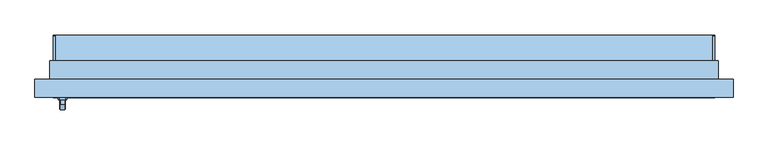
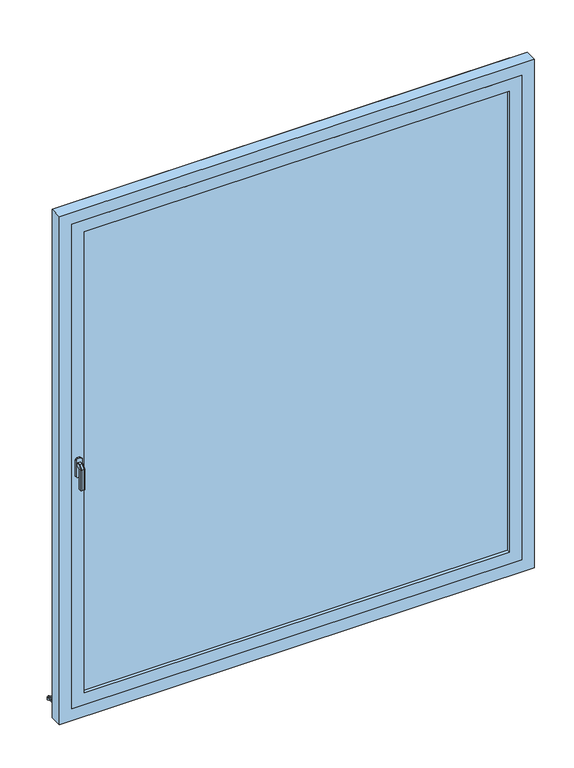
"""IFC4 building model written with IfcOpenShell, lengths in millimetres: window geometry, PF 1 Vantail - Droite blanc : 180/210."""

from ifc_helpers import new_model, si_unit, point, frame, frame_2d, origin, place, context, project, spatial, polyline, circle_curve, trimmed, segment, composite_curve, outline, extrude, faceted_brep, source, transform, mapped, element, save


def window_f47d9263(model_context):
    return source(origin(), model_context, "Body", "SolidModel", [
        faceted_brep([(-869.3539903, -86.0, 1122.0339292), (-867.9660708, -86.0, 1120.6460097), (-867.9660708, -86.0, 1109.3323012), (-869.3323012, -86.0, 1107.9660708), (-880.6676988, -86.0, 1107.9660708), (-882.0339292, -86.0, 1109.3323012), (-882.0339292, -86.0, 1120.6460097), (-880.6460097, -86.0, 1122.0339292), (-869.3539903, -98.9135489, 1122.0339292), (-867.9660708, -98.3386538, 1120.6460097), (-867.9660708, -111.6460097, 1107.3386538), (-867.9660708, -111.6460097, 1020.0), (-867.9660708, -100.3323012, 1020.0), (-867.9660708, -100.3323012, 1102.6523623), (-867.9660708, -93.6523623, 1109.3323012), (-869.3323012, -93.0864511, 1107.9660708), (-880.6676988, -93.0864511, 1107.9660708), (-882.0339292, -93.6523623, 1109.3323012), (-882.0339292, -100.3323012, 1102.6523623), (-882.0339292, -100.3323012, 1020.0), (-882.0339292, -111.6460097, 1020.0), (-882.0339292, -111.6460097, 1107.3386538), (-882.0339292, -98.3386538, 1120.6460097), (-880.6460097, -98.9135489, 1122.0339292), (-869.3539903, -113.0339292, 1107.9135489), (-869.3323012, -98.9660708, 1102.0864511), (-880.6676988, -98.9660708, 1102.0864511), (-880.6460097, -113.0339292, 1107.9135489), (-869.3539903, -113.0339292, 1020.0), (-880.6460097, -113.0339292, 1020.0), (-880.6676988, -98.9660708, 1020.0), (-869.3323012, -98.9660708, 1020.0)], [[[0, 1, 2, 3, 4, 5, 6, 7]], [[1, 0, 8, 9]], [[2, 1, 9, 10, 11, 12, 13, 14]], [[3, 2, 14, 15]], [[4, 3, 15, 16]], [[5, 4, 16, 17]], [[6, 5, 17, 18, 19, 20, 21, 22]], [[7, 6, 22, 23]], [[0, 7, 23, 8]], [[9, 8, 24, 10]], [[15, 14, 13, 25]], [[16, 15, 25, 26]], [[17, 16, 26, 18]], [[23, 22, 21, 27]], [[8, 23, 27, 24]], [[28, 29, 20, 19, 30, 31, 12, 11]], [[10, 24, 28, 11]], [[25, 13, 12, 31]], [[26, 25, 31, 30]], [[18, 26, 30, 19]], [[27, 21, 20, 29]], [[24, 27, 29, 28]]]),
        extrude(outline(polyline([(1140.0, -868.0), (1140.0, -882.0), (1135.0, -887.0), (1065.0, -887.0), (1060.0, -882.0), (1060.0, -868.0), (1065.0, -863.0), (1135.0, -863.0), (1140.0, -868.0)])), frame((0.0, -86.0, 0.0), z_axis=(0.0, 1.0, 0.0), x_axis=(0.0, 0.0, 1.0)), (0.0, 0.0, 1.0), 6.0),
        extrude(outline(polyline([(90.0288776, 30.7927954), (90.0288776, 19.7145929), (85.0288776, 20.2401141), (85.0288776, 26.0631048), (0.0, 35.0), (0.0, 50.0), (5.0, 50.0), (5.0, 39.7296906), (90.0288776, 30.7927954)])), frame((-900.0, 0.0, 0.0), z_axis=(1.0, 0.0, 0.0), x_axis=(0.0, 1.0, 0.0)), (0.0, 0.0, 1.0), 1800.0),
        extrude(outline(composite_curve([segment(polyline([(90.0288776, 30.7927954), (5.0, 39.7296906), (5.0, 44.757232), (86.4469915, 36.1968082)]), True, "CONTINUOUS"), segment(trimmed(circle_curve(frame_2d((86.0288776, 32.2187207)), 4.0), [point((86.4469915, 36.1968082))], [point((90.0288776, 32.2187207))], False, "CARTESIAN"), True, "CONTINUOUS"), segment(polyline([(90.0288776, 32.2187207), (90.0288776, 30.7927954)]), True, "CONTINUOUS")], self_intersect=False)), frame((-900.0, 0.0, 0.0), z_axis=(1.0, 0.0, 0.0), x_axis=(0.0, 1.0, 0.0)), (0.0, 0.0, 1.0), 5.0),
        extrude(outline(composite_curve([segment(polyline([(90.0288776, 30.7927954), (5.0, 39.7296906), (5.0, 44.757232), (86.4469915, 36.1968082)]), True, "CONTINUOUS"), segment(trimmed(circle_curve(frame_2d((86.0288776, 32.2187207)), 4.0), [point((86.4469915, 36.1968082))], [point((90.0288776, 32.2187207))], False, "CARTESIAN"), True, "CONTINUOUS"), segment(polyline([(90.0288776, 32.2187207), (90.0288776, 30.7927954)]), True, "CONTINUOUS")], self_intersect=False)), frame((895.0, 0.0, 0.0), z_axis=(1.0, 0.0, 0.0), x_axis=(0.0, 1.0, 0.0)), (0.0, 0.0, 1.0), 5.0),
        extrude(outline(polyline([(-850.0, -54.0), (850.0, -54.0), (850.0, -66.0), (-850.0, -66.0), (-850.0, -54.0)])), frame((0.0, 0.0, 135.0), z_axis=(0.0, 0.0, 1.0), x_axis=(1.0, 0.0, 0.0)), (0.0, 0.0, 1.0), 1950.0),
        extrude(outline(polyline([(85.0, 900.0), (2135.0, 900.0), (2135.0, -900.0), (85.0, -900.0), (85.0, 900.0)]), holes=[polyline([(135.0, -850.0), (2085.0, -850.0), (2085.0, 850.0), (135.0, 850.0), (135.0, -850.0)])]), frame((0.0, -80.0, 0.0), z_axis=(0.0, 1.0, 0.0), x_axis=(0.0, 0.0, 1.0)), (0.0, 0.0, 1.0), 40.0),
        faceted_brep([(-950.0, -80.0, 35.0), (-950.0, -30.0, 35.0), (-900.0, -30.0, 35.0), (-900.0, 0.0, 35.0), (900.0, 0.0, 35.0), (900.0, -30.0, 35.0), (950.0, -30.0, 35.0), (950.0, -80.0, 35.0), (-950.0, -80.0, 2185.0), (-950.0, -30.0, 2185.0), (950.0, -30.0, 2185.0), (900.0, -30.0, 74.3761425), (-900.0, -30.0, 74.3761425), (-885.0, -30.0, 2120.0), (-885.0, -30.0, 100.0), (885.0, -30.0, 100.0), (885.0, -30.0, 2120.0), (-900.0, 20.0, 60.9786829), (-900.0, 20.0, 45.0), (-900.0, 10.0, 45.0), (-900.0, 10.0, 50.0), (-900.0, 0.0, 50.0), (900.0, 0.0, 50.0), (900.0, 10.0, 50.0), (900.0, 10.0, 45.0), (900.0, 20.0, 45.0), (900.0, 20.0, 60.9786829), (950.0, -80.0, 2185.0), (900.0, -80.0, 2135.0), (900.0, -80.0, 85.0), (-900.0, -80.0, 85.0), (-900.0, -80.0, 2135.0), (-885.0, -40.0, 2120.0), (-885.0, -40.0, 100.0), (885.0, -40.0, 100.0), (885.0, -40.0, 2120.0), (900.0, -40.0, 2135.0), (-900.0, -40.0, 2135.0), (-900.0, -40.0, 85.0), (900.0, -40.0, 85.0)], [[[0, 1, 2, 3, 4, 5, 6, 7]], [[1, 0, 8, 9]], [[1, 9, 10, 6, 5, 11, 12, 2], [13, 14, 15, 16]], [[12, 17, 18, 19, 20, 21, 3, 2]], [[3, 21, 22, 4]], [[4, 22, 23, 24, 25, 26, 11, 5]], [[6, 10, 27, 7]], [[0, 7, 27, 8], [28, 29, 30, 31]], [[13, 32, 33, 14]], [[33, 34, 15, 14]], [[35, 16, 15, 34]], [[17, 12, 11, 26]], [[36, 37, 38, 39], [32, 35, 34, 33]], [[38, 37, 31, 30]], [[30, 29, 39, 38]], [[28, 36, 39, 29]], [[18, 17, 26, 25]], [[19, 18, 25, 24]], [[20, 19, 24, 23]], [[21, 20, 23, 22]], [[13, 16, 35, 32]], [[37, 36, 28, 31]], [[10, 9, 8, 27]]]),
        extrude(outline(polyline([(35.0, -910.0), (35.0, -900.0), (2135.0, -900.0), (2135.0, 900.0), (35.0, 900.0), (35.0, 910.0), (2145.0, 910.0), (2145.0, -910.0), (35.0, -910.0)])), frame((0.0, -30.0, 0.0), z_axis=(0.0, 1.0, 0.0), x_axis=(0.0, 0.0, 1.0)), (0.0, 0.0, 1.0), 50.0),
    ])


if __name__ == "__main__":
    model = new_model("IFC4")
    model_context = context("Model", 3, world=origin())
    ifc_project = project(units=[si_unit("LENGTHUNIT", "METRE", prefix="MILLI")], contexts=[model_context])
    site = spatial("IfcSite", under=ifc_project)
    building = spatial("IfcBuilding", under=site)
    placement = place(None, origin())
    window_shape = window_f47d9263(model_context)
    element("IfcWindow", 1, ObjectType="PF 1 Vantail - Droite blanc : 180/210", at=placement, inside=building, context=model_context, shape_type="MappedRepresentation", body=[
        mapped(window_shape, transform((0.0, 0.0, 0.0), x_axis=(1.0, 0.0, 0.0), y_axis=(0.0, 1.0, 0.0), z_axis=(0.0, 0.0, 1.0))),
    ])
    save(model, "model.ifc")
